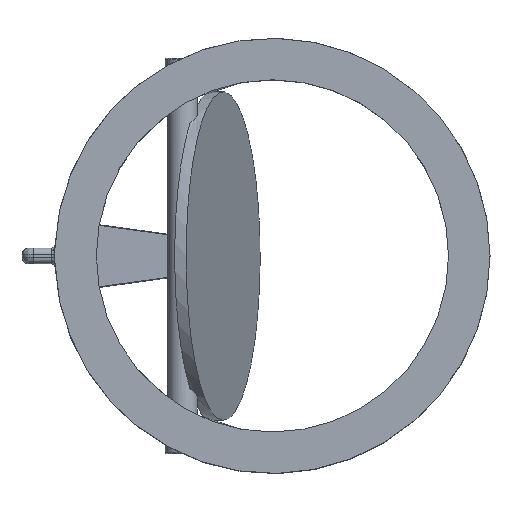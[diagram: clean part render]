
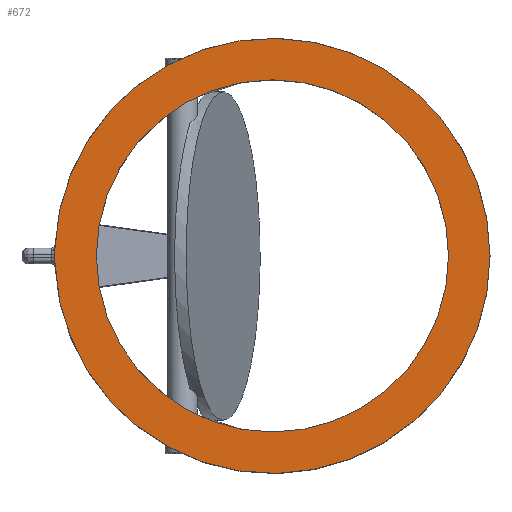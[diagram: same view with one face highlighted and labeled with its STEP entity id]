
A CAD part, top view. The second image highlights one B-rep face of the part: STEP entity #672.
In plain terms, the highlighted planar face has unit normal (0, 0, 1).
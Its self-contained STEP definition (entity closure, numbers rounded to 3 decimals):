
#672 = ADVANCED_FACE( '', ( #1459, #1460 ), #1461, .F. );
#1459 = FACE_OUTER_BOUND( '', #9329, .T. );
#1460 = FACE_BOUND( '', #9330, .T. );
#1461 = PLANE( '', #9331 );
#9329 = EDGE_LOOP( '', ( #14382, #14383, #14384, #14385 ) );
#9330 = EDGE_LOOP( '', ( #14386 ) );
#9331 = AXIS2_PLACEMENT_3D( '', #14387, #14388, #14389 );
#14382 = ORIENTED_EDGE( '', *, *, #15784, .F. );
#14383 = ORIENTED_EDGE( '', *, *, #15464, .F. );
#14384 = ORIENTED_EDGE( '', *, *, #15475, .F. );
#14385 = ORIENTED_EDGE( '', *, *, #15448, .F. );
#14386 = ORIENTED_EDGE( '', *, *, #15534, .F. );
#14387 = CARTESIAN_POINT( '', ( 0., 0., 76. ) );
#14388 = DIRECTION( '', ( 0., 0., -1. ) );
#14389 = DIRECTION( '', ( -1., 0., 0. ) );
#15448 = EDGE_CURVE( '', #16715, #16717, #16718, .T. );
#15464 = EDGE_CURVE( '', #16273, #16741, #16742, .T. );
#15475 = EDGE_CURVE( '', #16717, #16273, #16757, .T. );
#15534 = EDGE_CURVE( '', #16841, #16841, #16842, .T. );
#15784 = EDGE_CURVE( '', #16741, #16715, #17146, .T. );
#16273 = VERTEX_POINT( '', #20018 );
#16715 = VERTEX_POINT( '', #23263 );
#16717 = VERTEX_POINT( '', #23265 );
#16718 = CIRCLE( '', #23266, 278. );
#16741 = VERTEX_POINT( '', #23349 );
#16742 = CIRCLE( '', #23350, 278. );
#16757 = CIRCLE( '', #23459, 278. );
#16841 = VERTEX_POINT( '', #24135 );
#16842 = CIRCLE( '', #24136, 225. );
#17146 = CIRCLE( '', #26383, 278. );
#20018 = CARTESIAN_POINT( '', ( -277.816, 10.125, 76. ) );
#23263 = CARTESIAN_POINT( '', ( -277.993, -1.972, 76. ) );
#23265 = CARTESIAN_POINT( '', ( -277.993, 1.972, 76. ) );
#23266 = AXIS2_PLACEMENT_3D( '', #27097, #27098, #27099 );
#23349 = CARTESIAN_POINT( '', ( -277.816, -10.125, 76. ) );
#23350 = AXIS2_PLACEMENT_3D( '', #27107, #27108, #27109 );
#23459 = AXIS2_PLACEMENT_3D( '', #27117, #27118, #27119 );
#24135 = CARTESIAN_POINT( '', ( 0., -225., 76. ) );
#24136 = AXIS2_PLACEMENT_3D( '', #27137, #27138, #27139 );
#26383 = AXIS2_PLACEMENT_3D( '', #27191, #27192, #27193 );
#27097 = CARTESIAN_POINT( '', ( 0., 0., 76. ) );
#27098 = DIRECTION( '', ( 0., 0., -1. ) );
#27099 = DIRECTION( '', ( 1., 0., 0. ) );
#27107 = CARTESIAN_POINT( '', ( 0., 0., 76. ) );
#27108 = DIRECTION( '', ( 0., 0., -1. ) );
#27109 = DIRECTION( '', ( 1., 0., 0. ) );
#27117 = CARTESIAN_POINT( '', ( 0., 0., 76. ) );
#27118 = DIRECTION( '', ( 0., 0., -1. ) );
#27119 = DIRECTION( '', ( 1., 0., 0. ) );
#27137 = CARTESIAN_POINT( '', ( 0., 0., 76. ) );
#27138 = DIRECTION( '', ( 0., 0., 1. ) );
#27139 = DIRECTION( '', ( 0., -1., 0. ) );
#27191 = CARTESIAN_POINT( '', ( 0., 0., 76. ) );
#27192 = DIRECTION( '', ( 0., 0., -1. ) );
#27193 = DIRECTION( '', ( 1., 0., 0. ) );
